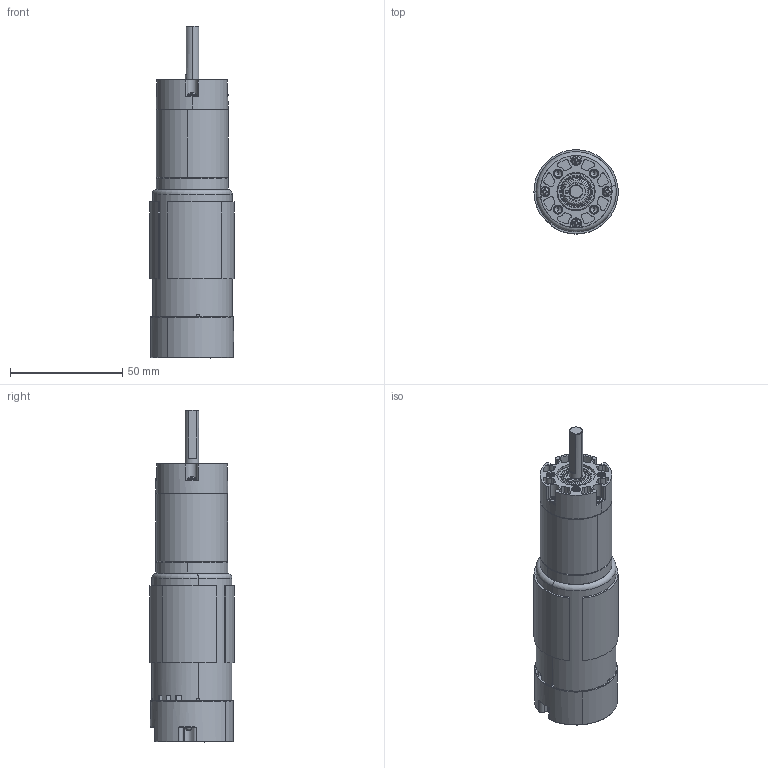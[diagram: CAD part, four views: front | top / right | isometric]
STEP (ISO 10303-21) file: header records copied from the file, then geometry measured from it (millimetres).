
FILE_DESCRIPTION (( 'STEP AP203' ), '1' );
FILE_NAME ('5202-0002-0051 part.STEP', '2018-08-14T04:29:41', ( '' ), ( '' ), 'SwSTEP 2.0', 'SolidWorks 2016', '' );
FILE_SCHEMA (( 'CONFIG_CONTROL_DESIGN' ));
Products named in the file (1): 5202-0002-0051 part
Bounding box: 37.43 x 37.43 x 147.7 mm (x, y, z)
Volume: 61273 mm3; surface area: 41980.9 mm2
Topology: 38 solids, 38 shells, 1541 faces, 4092 edges, 2679 vertices
Faces by surface type: cylinder 667, plane 508, bspline 172, torus 95, cone 85, sphere 14
Entity records: 69492 total; most frequent: CARTESIAN_POINT 34487, ORIENTED_EDGE 8158, DIRECTION 6445, EDGE_CURVE 4079, VERTEX_POINT 2678, AXIS2_PLACEMENT_3D 2346, VECTOR 1753, LINE 1753
